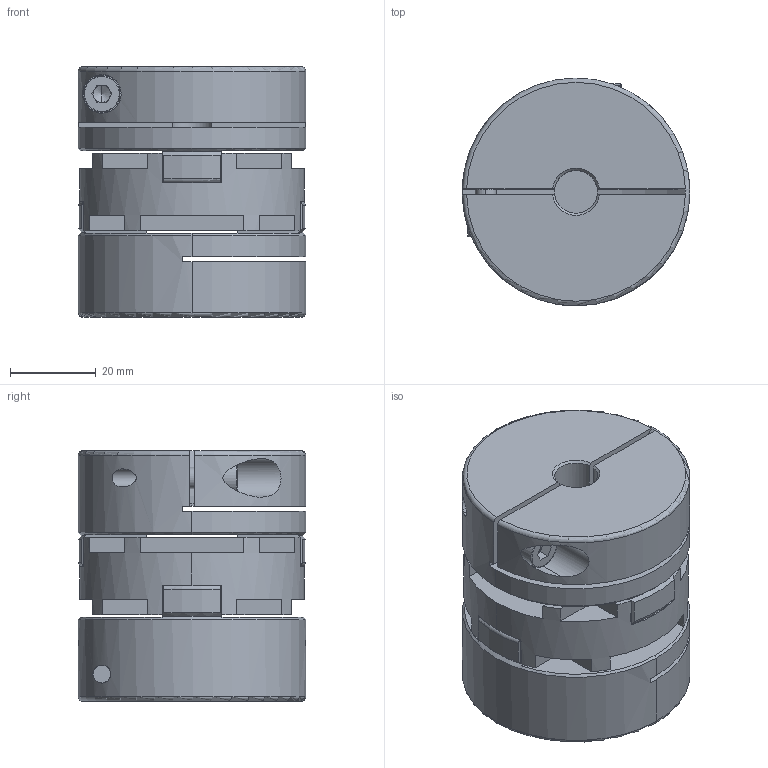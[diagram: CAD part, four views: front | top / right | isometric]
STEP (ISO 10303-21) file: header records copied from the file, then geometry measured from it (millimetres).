
FILE_DESCRIPTION (( 'STEP AP203' ), '1' );
FILE_NAME ('SOH-53C-10X25_203.STEP', '2013-01-28T07:59:12', ( '' ), ( '' ), 'SwSTEP 2.0', 'SolidWorks 2012', '' );
FILE_SCHEMA (( 'CONFIG_CONTROL_DESIGN' ));
Length unit declared in the file: millimetre
Products named in the file (1): SOH-53C-10X25_203
Bounding box: 53 x 53 x 58.3 mm (x, y, z)
Volume: 96577.6 mm3; surface area: 30589.4 mm2
Topology: 1 solids, 1 shells, 254 faces, 732 edges, 466 vertices
Faces by surface type: plane 156, cylinder 52, cone 24, torus 22
Entity records: 8843 total; most frequent: CARTESIAN_POINT 2069, ORIENTED_EDGE 1456, DIRECTION 1368, EDGE_CURVE 728, AXIS2_PLACEMENT_3D 473, VERTEX_POINT 466, VECTOR 422, LINE 422
